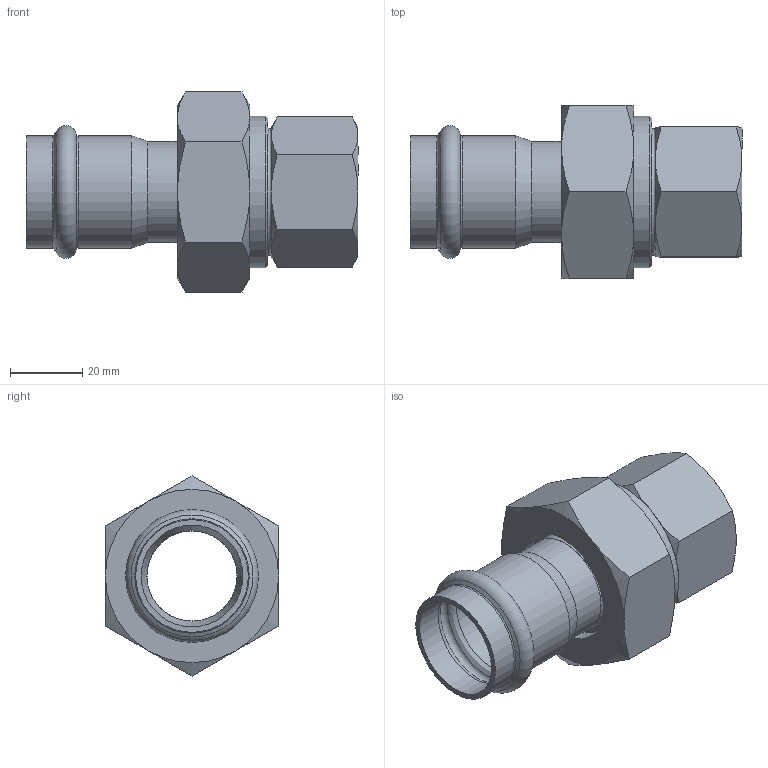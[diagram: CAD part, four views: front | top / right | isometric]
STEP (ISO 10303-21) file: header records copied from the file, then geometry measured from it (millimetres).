
FILE_DESCRIPTION((''),'2;1');
FILE_NAME('G:\Nirosan-Schmiedefeld\Technics\CAD\Bauteile VA\028\69330GMVA281(3).stp','2011-06-29T10:33:01',('herberg'),(''),'Autodesk Inventor 2009','Autodesk Inventor 2009','');
FILE_SCHEMA(('AUTOMOTIVE_DESIGN { 1 0 10303 214 1 1 1 1 }'));
Length unit declared in the file: millimetre
Products named in the file (7): 69330GMVA281(3); 69359m28114(4); HM_6924328(1); R28114(0); SM28114(3); FD_3827_EPDM(0); 69370G1141(1)
Assembly tree (6 placements, depth 3):
  69330GMVA281(3)
    69359m28114(4)
      HM_6924328(1)
      R28114(0)
      SM28114(3)
      FD_3827_EPDM(0)
    69370G1141(1)
Bounding box: 92 x 48 x 55.43 mm (x, y, z)
Volume: 48342.2 mm3; surface area: 30920.2 mm2
Topology: 5 solids, 5 shells, 83 faces, 165 edges, 96 vertices
Faces by surface type: cone 33, plane 24, bspline 12, cylinder 12, torus 2
Full cylindrical faces by diameter (mm): 25 x2, 27 x1, 28 x2, 28.2 x2, 31.2 x2, 38 x2, 41.91 x1
Entity records: 2432 total; most frequent: CARTESIAN_POINT 788, DIRECTION 318, ORIENTED_EDGE 258, AXIS2_PLACEMENT_3D 153, EDGE_LOOP 130, EDGE_CURVE 129, VERTEX_POINT 93, FACE_OUTER_BOUND 83
